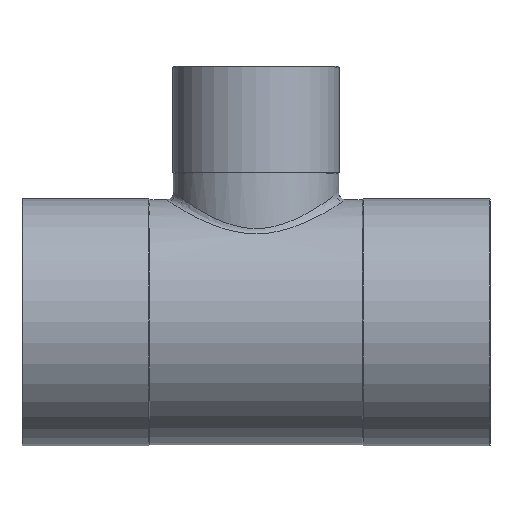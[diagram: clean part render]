
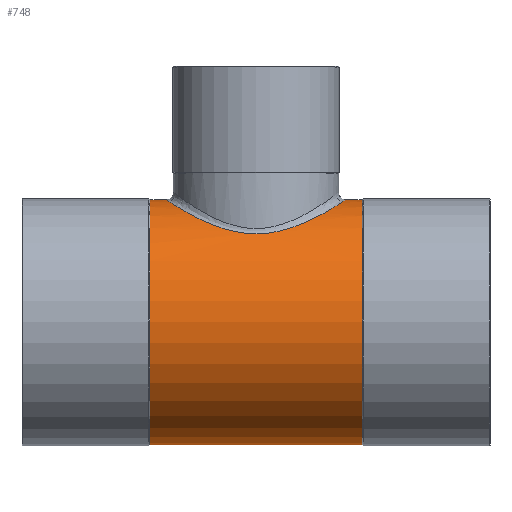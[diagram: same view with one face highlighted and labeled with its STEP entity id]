
A CAD part, top view. The second image highlights one B-rep face of the part: STEP entity #748.
In plain terms, the highlighted cylindrical face has radius 33.5 mm (diameter 67 mm), a partial arc.
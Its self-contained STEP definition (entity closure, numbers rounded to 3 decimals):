
#133=CARTESIAN_POINT('',(28.996,33.5,0.0));
#134=VERTEX_POINT('',#133);
#143=CARTESIAN_POINT('',(28.996,-33.5,0.));
#144=VERTEX_POINT('',#143);
#145=CARTESIAN_POINT('',(28.996,0.0,0.0));
#146=DIRECTION('',(1.0,0.0,0.0));
#147=DIRECTION('',(0.0,1.0,0.0));
#148=AXIS2_PLACEMENT_3D('',#145,#146,#147);
#149=CIRCLE('',#148,33.5);
#150=EDGE_CURVE('',#134,#144,#149,.T.);
#177=CARTESIAN_POINT('',(-28.996,33.5,0.0));
#178=VERTEX_POINT('',#177);
#194=CARTESIAN_POINT('',(-28.996,-33.5,0.));
#195=VERTEX_POINT('',#194);
#202=CARTESIAN_POINT('',(-28.996,0.0,0.0));
#203=DIRECTION('',(1.0,0.0,0.0));
#204=DIRECTION('',(0.0,1.0,0.0));
#205=AXIS2_PLACEMENT_3D('',#202,#203,#204);
#206=CIRCLE('',#205,33.5);
#207=EDGE_CURVE('',#178,#195,#206,.T.);
#698=CARTESIAN_POINT('',(14.498,0.0,0.0));
#699=DIRECTION('',(1.0,0.0,0.0));
#700=DIRECTION('',(0.0,1.0,0.0));
#701=AXIS2_PLACEMENT_3D('',#698,#699,#700);
#702=CYLINDRICAL_SURFACE('',#701,33.5);
#703=CARTESIAN_POINT('',(-24.6,33.5,0.));
#704=VERTEX_POINT('',#703);
#705=CARTESIAN_POINT('',(-28.996,33.5,0.0));
#706=DIRECTION('',(1.0,0.0,0.0));
#707=VECTOR('',#706,4.396);
#708=LINE('',#705,#707);
#709=EDGE_CURVE('',#178,#704,#708,.T.);
#710=ORIENTED_EDGE('',*,*,#709,.F.);
#711=ORIENTED_EDGE('',*,*,#207,.T.);
#712=CARTESIAN_POINT('',(28.996,-33.5,0.));
#713=DIRECTION('',(-1.0,0.0,0.0));
#714=VECTOR('',#713,57.992);
#715=LINE('',#712,#714);
#716=EDGE_CURVE('',#144,#195,#715,.T.);
#717=ORIENTED_EDGE('',*,*,#716,.F.);
#718=ORIENTED_EDGE('',*,*,#150,.F.);
#719=CARTESIAN_POINT('',(24.6,33.5,0.));
#720=VERTEX_POINT('',#719);
#721=CARTESIAN_POINT('',(24.6,33.5,0.));
#722=DIRECTION('',(1.0,0.0,0.0));
#723=VECTOR('',#722,4.396);
#724=LINE('',#721,#723);
#725=EDGE_CURVE('',#720,#134,#724,.T.);
#726=ORIENTED_EDGE('',*,*,#725,.F.);
#727=CARTESIAN_POINT('',(-24.6,33.5,0.));
#728=CARTESIAN_POINT('',(-24.6,33.5,0.523));
#729=CARTESIAN_POINT('',(-24.581,33.488,1.052));
#730=CARTESIAN_POINT('',(-24.133,33.195,7.264));
#731=CARTESIAN_POINT('',(-21.442,31.356,12.562));
#732=CARTESIAN_POINT('',(-14.544,27.686,19.129));
#733=CARTESIAN_POINT('',(-10.891,25.973,21.211));
#734=CARTESIAN_POINT('',(-3.227,24.133,23.269));
#735=CARTESIAN_POINT('',(0.684,23.922,23.467));
#736=CARTESIAN_POINT('',(7.979,25.07,22.236));
#737=CARTESIAN_POINT('',(11.333,26.308,20.87));
#738=CARTESIAN_POINT('',(19.198,29.91,15.62));
#739=CARTESIAN_POINT('',(22.872,32.38,10.505));
#740=CARTESIAN_POINT('',(24.441,33.395,3.036));
#741=CARTESIAN_POINT('',(24.6,33.5,1.513));
#742=CARTESIAN_POINT('',(24.6,33.5,0.));
#743=B_SPLINE_CURVE_WITH_KNOTS('',3,(#727,#728,#729,#730,#731,#732,#733,#734,#735,#736,#737,#738,#739,#740,#741,#742),.UNSPECIFIED.,.F.,.U.,(4,2,2,2,2,2,2,4),(3.552,3.7,5.308,6.493,7.492,8.491,10.227,10.655),.UNSPECIFIED.);
#744=EDGE_CURVE('',#704,#720,#743,.T.);
#745=ORIENTED_EDGE('',*,*,#744,.F.);
#746=EDGE_LOOP('',(#710,#711,#717,#718,#726,#745));
#747=FACE_OUTER_BOUND('',#746,.T.);
#748=ADVANCED_FACE('',(#747),#702,.T.);
